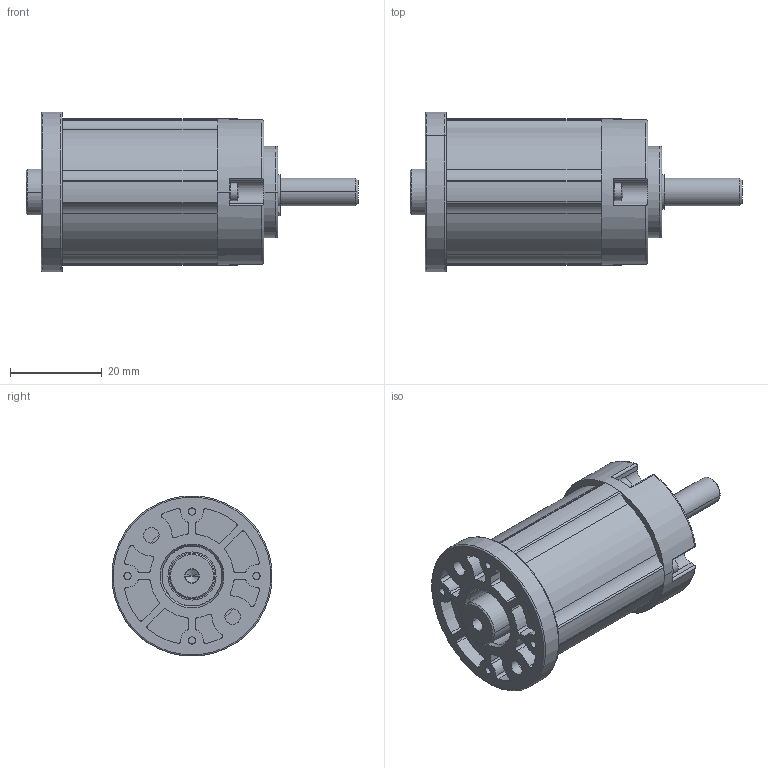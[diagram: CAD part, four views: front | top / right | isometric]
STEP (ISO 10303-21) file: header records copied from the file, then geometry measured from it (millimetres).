
FILE_DESCRIPTION((''),'2;1');
FILE_NAME('IMS32_ECO_3_STAGE_ASM','2023-07-27T09:23:57',('mhummel'),(''),'CREO PARAMETRIC BY PTC INC, 2020184','CREO PARAMETRIC BY PTC INC, 2020184','');
FILE_SCHEMA(('AUTOMOTIVE_DESIGN { 1 0 10303 214 1 1 1 1 }'));
Length unit declared in the file: millimetre
Products named in the file (12): IMS32_ECO_BALL_BEARING; IMS32_ECO_SINTERED_BEARING; IMS32_ECO_RING_GEAR_3_STAGE; IMS32_ECO_MOTOR_FLANGE; IMS32_ECO_SHAFT_RAW_AF0; IMS32_ECO_SHAFT_ASM; IMS32_ECO_RETAINING_RING_A; IMS32_ECO_THRUST_WASHER; IMS32_ECO_SCREW_3_STAGE; IMS32_ECO_MOTOR_PINION_LONG; IMS32_ECO_MOTOR_PINION_SHORT; IMS32_ECO_3_STAGE_ASM
Assembly tree (14 placements, depth 3):
  IMS32_ECO_3_STAGE_ASM
    IMS32_ECO_BALL_BEARING
    IMS32_ECO_SINTERED_BEARING
    IMS32_ECO_RING_GEAR_3_STAGE
    IMS32_ECO_MOTOR_FLANGE
    IMS32_ECO_SHAFT_ASM
      IMS32_ECO_SHAFT_RAW_AF0
    IMS32_ECO_RETAINING_RING_A
    IMS32_ECO_THRUST_WASHER
    IMS32_ECO_SCREW_3_STAGE  x4
    IMS32_ECO_MOTOR_PINION_LONG
    IMS32_ECO_MOTOR_PINION_SHORT
Bounding box: 72.4 x 34.87 x 34.87 mm (x, y, z)
Volume: 23007.6 mm3; surface area: 20047.3 mm2
Topology: 13 solids, 13 shells, 577 faces, 1400 edges, 887 vertices
Faces by surface type: cylinder 344, plane 133, cone 64, torus 28, sphere 8
Entity records: 18033 total; most frequent: DIRECTION 2734, CARTESIAN_POINT 2485, ORIENTED_EDGE 2244, AXIS2_PLACEMENT_3D 1150, PRESENTATION_STYLE_ASSIGNMENT 1132, STYLED_ITEM 1132, CURVE_STYLE 1122, EDGE_CURVE 1122
